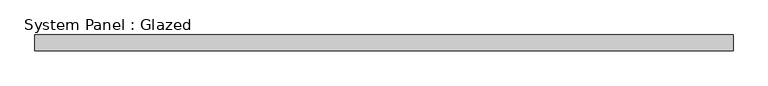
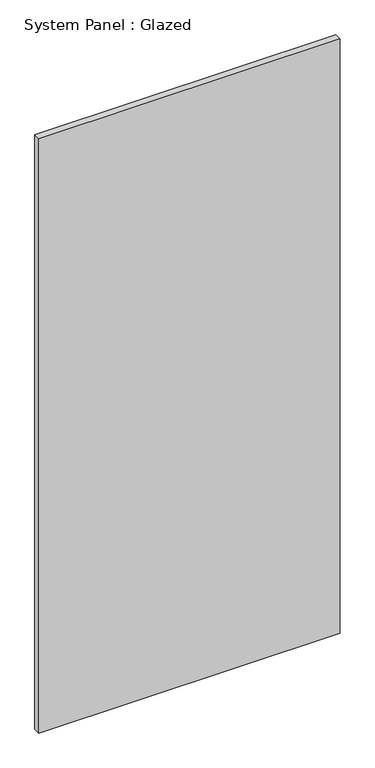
"""IFC4 building model written with IfcOpenShell, lengths in millimetres: plate geometry, System Panel : Glazed."""

from ifc_helpers import new_model, si_unit, origin, origin_with_axes, place, context, project, spatial, polyline, outline, extrude, source, transform, mapped, element, save


def system_panel_glazed_2148303e(model_context):
    return source(origin(), model_context, "Body", "SweptSolid", [
        extrude(outline(polyline([(561.975, 19.05), (-561.975, 19.05), (-561.975, 44.45), (561.975, 44.45), (561.975, 19.05)])), origin_with_axes(), (0.0, 0.0, 1.0), 2343.15),
    ])


if __name__ == "__main__":
    model = new_model("IFC4")
    model_context = context("Model", 3, world=origin())
    ifc_project = project(units=[si_unit("LENGTHUNIT", "METRE", prefix="MILLI")], contexts=[model_context])
    site = spatial("IfcSite", under=ifc_project)
    building = spatial("IfcBuilding", under=site)
    placement = place(None, origin())
    system_panel_glazed_shape = system_panel_glazed_2148303e(model_context)
    element("IfcPlate", 1, ObjectType="System Panel : Glazed", at=placement, inside=building, context=model_context, shape_type="MappedRepresentation", body=[
        mapped(system_panel_glazed_shape, transform((0.0, 0.0, 0.0), x_axis=(1.0, 0.0, 0.0), y_axis=(0.0, 1.0, 0.0), z_axis=(0.0, 0.0, 1.0))),
    ])
    save(model, "model.ifc")
